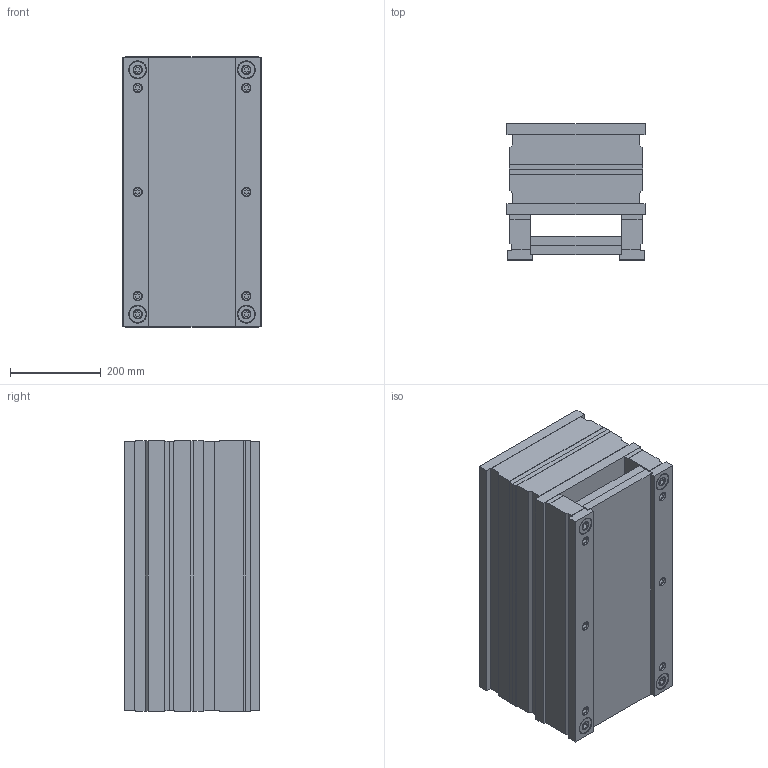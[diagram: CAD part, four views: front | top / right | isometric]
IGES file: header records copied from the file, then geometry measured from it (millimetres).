
Start section: SolidWorks IGES FILE using analytic representation for surfaces
Global section: file name: C:\Documents and Settings\K.P\My Documents\Mechanical\ALMO\CATL_EUR\RECT\2964.IGS; native system: SolidWorks 2001Plus by SolidWorks Corporation; preprocessor: Version 5.3; author: Pavel; date: 020710.073223; units: millimetre
Bounding box: 305 x 300 x 598 mm (x, y, z)
Surface area: 2376030 mm2 (no closed solid volume)
Topology: 0 solids, 0 shells, 922 faces, 16928 edges, 16908 vertices
Faces by surface type: revolution 568, bspline 354
